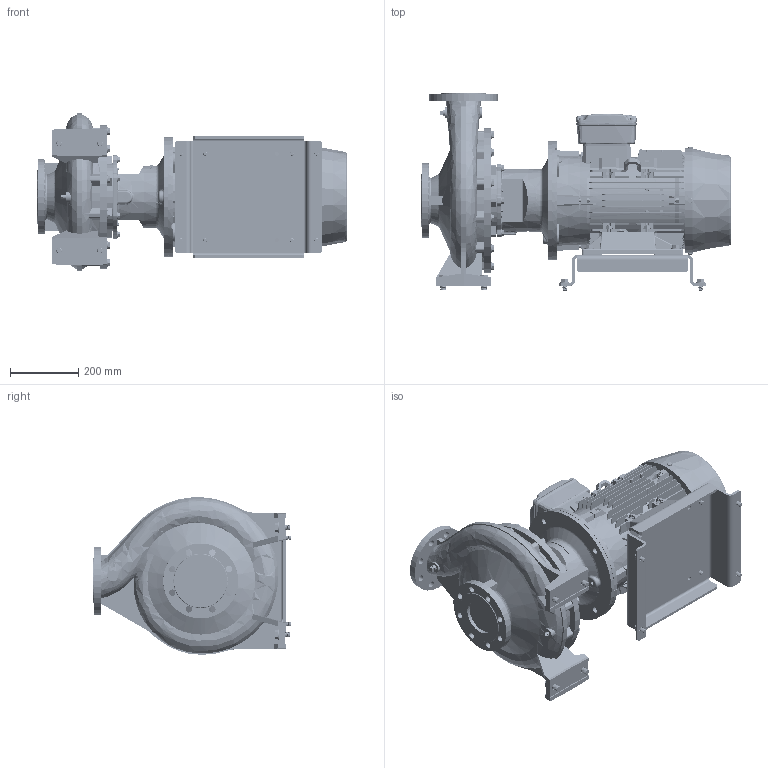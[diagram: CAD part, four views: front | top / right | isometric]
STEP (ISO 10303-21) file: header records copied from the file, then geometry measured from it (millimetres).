
FILE_DESCRIPTION (( 'STEP AP214' ), '1' );
FILE_NAME ('GSD4 80-315_11.0 & 15.0_(160ML)_W21.STEP', '2026-07-01T02:28:15', ( '' ), ( '' ), 'SwSTEP 2.0', 'SolidWorks 2024', '' );
FILE_SCHEMA (( 'AUTOMOTIVE_DESIGN' ));
Length unit declared in the file: millimetre
Products named in the file (12): Parametric bolt and washer_SFT-A297B; 160M_L_ALIE3_W21T_B35; Parametric Flat Washer_M12; CGS11-5254; GSD4 80-315_11.0 & 15.0_(160ML)_W21; Parametric Flat Washer_M16; Parametric bolt and washer_SFT-A303B; Parametric bolt and washer_SFT-A353B; Parametric bolt_SFT-A303B; Parametric bolt_SFT-A353B; 80-315-160M_L_ﾃﾞﾌｫﾙﾄ; Parametric bolt_SFT-A297B
Assembly tree (21 placements, depth 3):
  GSD4 80-315_11.0 & 15.0_(160ML)_W21
    80-315-160M_L_ﾃﾞﾌｫﾙﾄ
    CGS11-5254
    Parametric bolt and washer_SFT-A353B  x4
      Parametric bolt_SFT-A353B
      Parametric Flat Washer_M16
    Parametric bolt and washer_SFT-A297B  x4
      Parametric bolt_SFT-A297B
      Parametric Flat Washer_M12
    Parametric bolt and washer_SFT-A303B  x4
      Parametric bolt_SFT-A303B
      Parametric Flat Washer_M12
    160M_L_ALIE3_W21T_B35
Bounding box: 910.3 x 579.5 x 462.67 mm (x, y, z)
Volume: 58379132.7 mm3; surface area: 3695370.9 mm2
Topology: 63 solids, 69 shells, 6573 faces, 16972 edges, 10971 vertices
Faces by surface type: plane 3865, cylinder 1361, cone 634, bspline 460, torus 237, sphere 16
Entity records: 239908 total; most frequent: CARTESIAN_POINT 99026, ORIENTED_EDGE 30920, DIRECTION 26079, EDGE_CURVE 15460, VERTEX_POINT 10002, LINE 9715, VECTOR 9715, AXIS2_PLACEMENT_3D 8182
